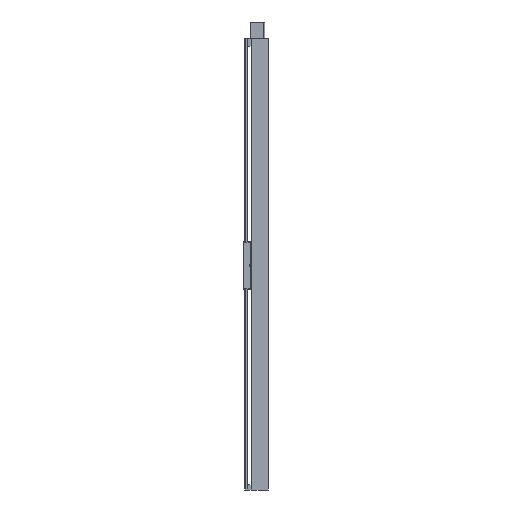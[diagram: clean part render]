
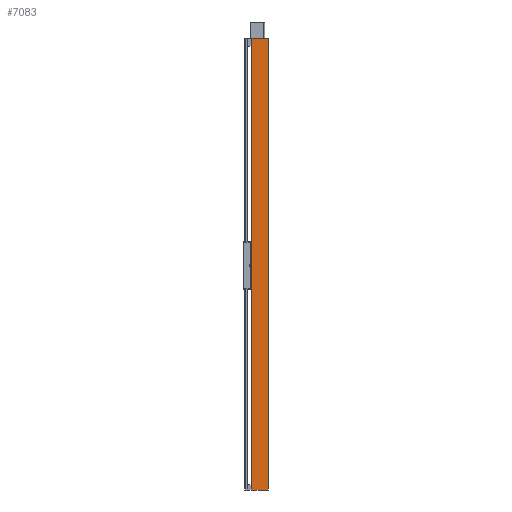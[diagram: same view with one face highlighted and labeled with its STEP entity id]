
A CAD part, left-side view. The second image highlights one B-rep face of the part: STEP entity #7083.
In plain terms, the highlighted planar face has unit normal (-1, 0, 0).
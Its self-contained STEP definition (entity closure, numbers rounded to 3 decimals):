
#1937=CARTESIAN_POINT('',(-68.,65.5,1745.0));
#1938=VERTEX_POINT('',#1937);
#1946=CARTESIAN_POINT('',(-68.0,0.5,1745.0));
#1947=VERTEX_POINT('',#1946);
#1948=CARTESIAN_POINT('',(-68.0,0.5,1745.0));
#1949=DIRECTION('',(0.0,1.0,0.0));
#1950=VECTOR('',#1949,65.0);
#1951=LINE('',#1948,#1950);
#1952=EDGE_CURVE('',#1947,#1938,#1951,.T.);
#6266=CARTESIAN_POINT('',(-68.0,0.5,-20.0));
#6267=VERTEX_POINT('',#6266);
#6276=CARTESIAN_POINT('',(-68.,65.5,-20.0));
#6277=VERTEX_POINT('',#6276);
#6278=CARTESIAN_POINT('',(-68.,65.5,-20.0));
#6279=DIRECTION('',(0.0,-1.0,0.0));
#6280=VECTOR('',#6279,65.0);
#6281=LINE('',#6278,#6280);
#6282=EDGE_CURVE('',#6277,#6267,#6281,.T.);
#7032=CARTESIAN_POINT('',(-68.0,0.5,-20.0));
#7033=DIRECTION('',(0.0,0.0,1.0));
#7034=VECTOR('',#7033,1765.0);
#7035=LINE('',#7032,#7034);
#7036=EDGE_CURVE('',#6267,#1947,#7035,.T.);
#7067=CARTESIAN_POINT('',(-68.0,0.5,0.0));
#7068=DIRECTION('',(-1.0,0.0,0.0));
#7069=DIRECTION('',(0.0,0.0,1.0));
#7070=AXIS2_PLACEMENT_3D('',#7067,#7068,#7069);
#7071=PLANE('',#7070);
#7072=CARTESIAN_POINT('',(-68.,65.5,-20.0));
#7073=DIRECTION('',(0.0,0.0,1.0));
#7074=VECTOR('',#7073,1765.0);
#7075=LINE('',#7072,#7074);
#7076=EDGE_CURVE('',#6277,#1938,#7075,.T.);
#7077=ORIENTED_EDGE('',*,*,#7076,.F.);
#7078=ORIENTED_EDGE('',*,*,#6282,.T.);
#7079=ORIENTED_EDGE('',*,*,#7036,.T.);
#7080=ORIENTED_EDGE('',*,*,#1952,.T.);
#7081=EDGE_LOOP('',(#7077,#7078,#7079,#7080));
#7082=FACE_OUTER_BOUND('',#7081,.T.);
#7083=ADVANCED_FACE('',(#7082),#7071,.T.);
